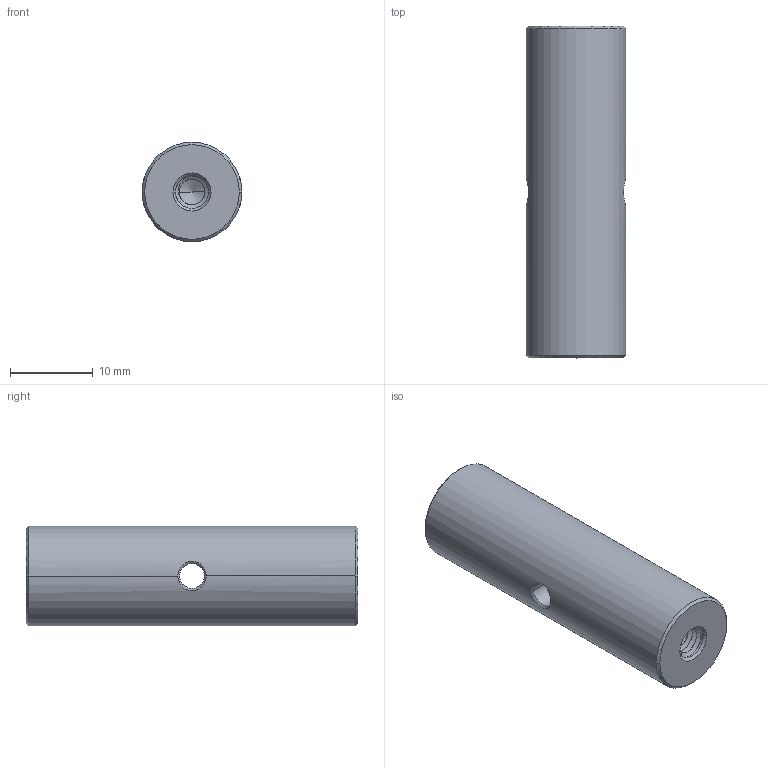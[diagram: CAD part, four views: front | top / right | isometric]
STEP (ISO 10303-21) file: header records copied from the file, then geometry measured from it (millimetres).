
FILE_DESCRIPTION((''),'2;1');
FILE_NAME('PCA4-S2','2020-12-11T',('Administrator'),(''),'CREO PARAMETRIC BY PTC INC, 2015290','CREO PARAMETRIC BY PTC INC, 2015290','');
FILE_SCHEMA(('CONFIG_CONTROL_DESIGN'));
Length unit declared in the file: millimetre
Products named in the file (1): PCA4-S2
Bounding box: 12 x 40 x 12 mm (x, y, z)
Volume: 4278.7 mm3; surface area: 2073.3 mm2
Topology: 1 solids, 1 shells, 80 faces, 216 edges, 134 vertices
Faces by surface type: cylinder 42, bspline 24, cone 12, plane 2
Entity records: 6210 total; most frequent: CARTESIAN_POINT 4478, ORIENTED_EDGE 424, DIRECTION 228, EDGE_CURVE 212, VERTEX_POINT 134, B_SPLINE_CURVE_WITH_KNOTS 116, EDGE_LOOP 82, FACE_OUTER_BOUND 80
